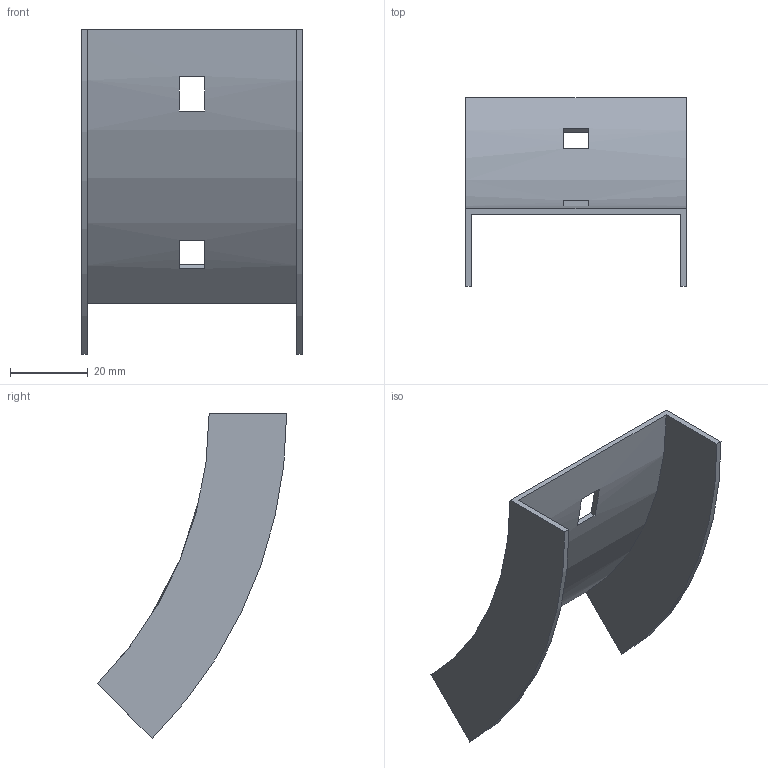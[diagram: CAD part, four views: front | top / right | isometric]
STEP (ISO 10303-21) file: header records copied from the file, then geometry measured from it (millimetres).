
FILE_DESCRIPTION (( 'STEP AP214' ), '1' );
FILE_NAME ('31N1R050.step', '2025-02-21T09:22:45', ( '' ), ( '' ), 'SwSTEP 2.0', 'SolidWorks 2023', '' );
FILE_SCHEMA (( 'AUTOMOTIVE_DESIGN' ));
Length unit declared in the file: millimetre
Products named in the file (1): 31N1R050
Bounding box: 57 x 48.85 x 83.79 mm (x, y, z)
Volume: 11248.9 mm3; surface area: 15652.4 mm2
Topology: 1 solids, 1 shells, 18 faces, 48 edges, 32 vertices
Faces by surface type: plane 14, cylinder 4
Entity records: 599 total; most frequent: DIRECTION 102, CARTESIAN_POINT 99, ORIENTED_EDGE 96, EDGE_CURVE 48, AXIS2_PLACEMENT_3D 35, VECTOR 32, LINE 32, VERTEX_POINT 32
